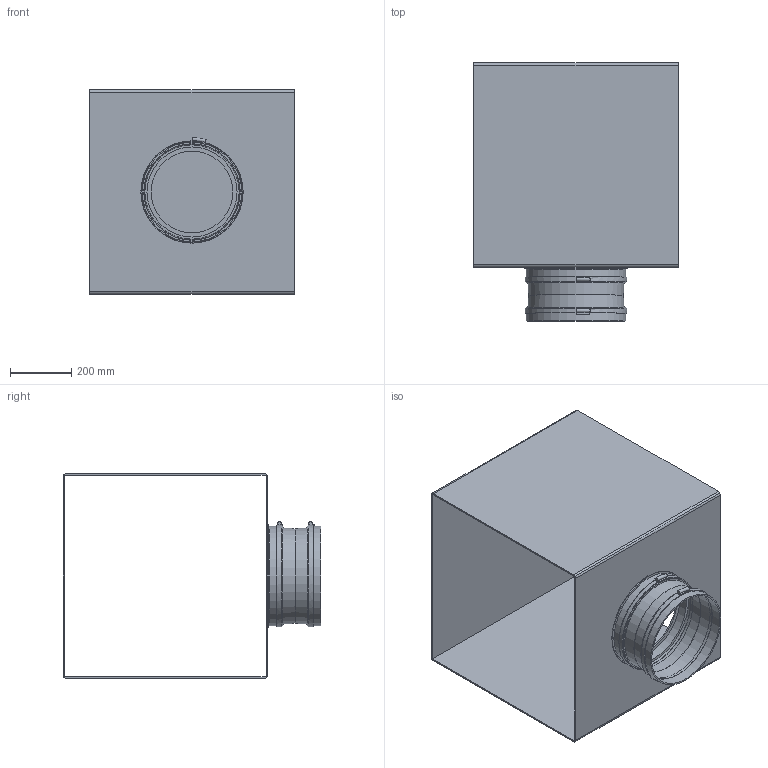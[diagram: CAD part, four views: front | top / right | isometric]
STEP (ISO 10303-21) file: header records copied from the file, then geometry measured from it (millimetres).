
FILE_DESCRIPTION(/* description */ (''),/* implementation_level */ '2;1');
FILE_NAME(/* name */ 'Z:\Output\GBW 400_4_DoubleRadial-05513-006.stp',/* time_stamp */ '2017-05-09T00:03:53+02:00',/* author */ ('jayeshpanchal'),/* organization */ (''),/* preprocessor_version */ 'ST-DEVELOPER v16.5',/* originating_system */ 'Autodesk Inventor 2017',/* authorisation */ '');
FILE_SCHEMA (('AUTOMOTIVE_DESIGN { 1 0 10303 214 3 1 1 }'));
Length unit declared in the file: millimetre
Products named in the file (1): GB-3
Bounding box: 670 x 845 x 670 mm (x, y, z)
Volume: 9516357.1 mm3; surface area: 3949527.4 mm2
Topology: 4 solids, 4 shells, 61 faces, 121 edges, 77 vertices
Faces by surface type: plane 31, cylinder 24, cone 4, torus 2
Full cylindrical faces by diameter (mm): 268 x1, 295 x1, 305 x1, 315 x1, 316 x4, 325 x1, 326 x4, 332 x2, 335 x1
Entity records: 1519 total; most frequent: DIRECTION 280, CARTESIAN_POINT 238, ORIENTED_EDGE 204, AXIS2_PLACEMENT_3D 118, EDGE_LOOP 100, EDGE_CURVE 100, VERTEX_POINT 76, FACE_OUTER_BOUND 61
